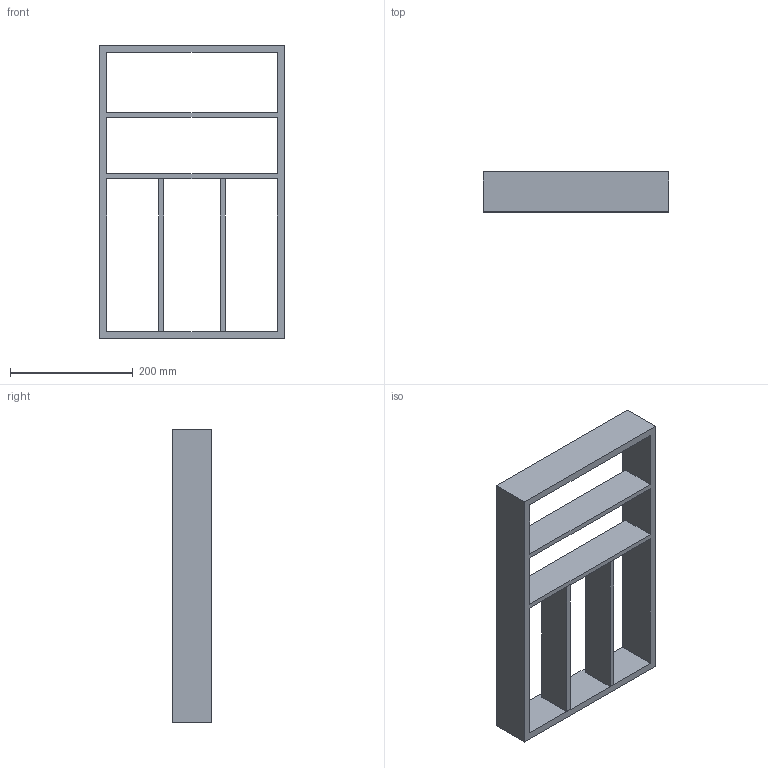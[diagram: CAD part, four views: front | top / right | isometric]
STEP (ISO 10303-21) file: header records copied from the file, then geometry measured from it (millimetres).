
FILE_DESCRIPTION (( 'STEP AP214' ), '1' );
FILE_NAME ('Vario Besteck NL500_B400_19 mm_Alu.step', '2010-11-04T08:33:13', ( 'grass' ), ( '' ), 'SwSTEP 2.0', 'SolidWorks 2010', '' );
FILE_SCHEMA (( 'AUTOMOTIVE_DESIGN' ));
Length unit declared in the file: millimetre
Products named in the file (1): Vario Besteck NL500_B400_19 mm_Alu
Bounding box: 302 x 65 x 479 mm (x, y, z)
Volume: 1661544 mm3; surface area: 370176 mm2
Topology: 3 solids, 3 shells, 28 faces, 72 edges, 48 vertices
Faces by surface type: plane 28
Entity records: 900 total; most frequent: CARTESIAN_POINT 149, ORIENTED_EDGE 144, DIRECTION 130, VECTOR 72, LINE 72, EDGE_CURVE 72, VERTEX_POINT 48, EDGE_LOOP 32
